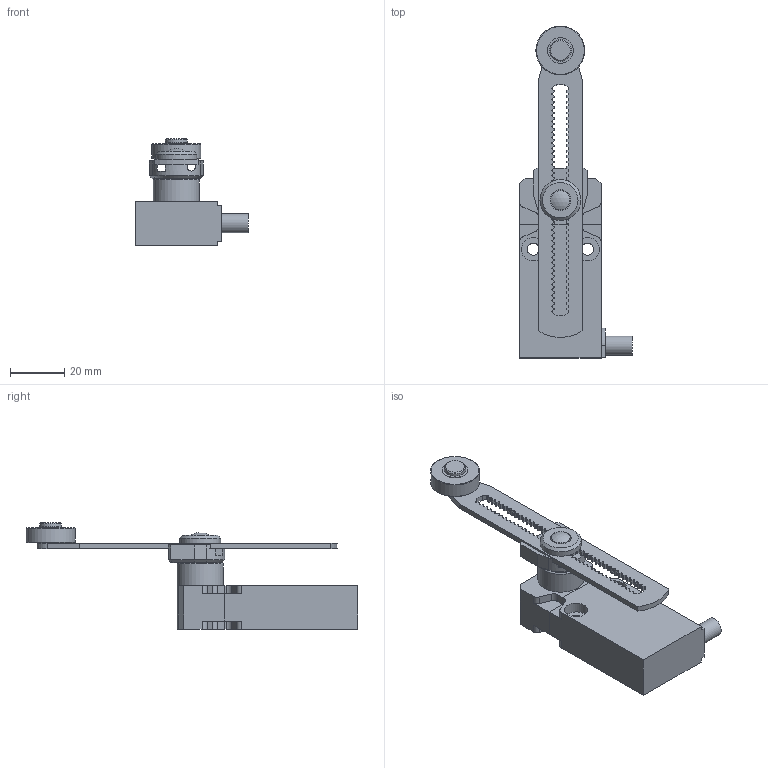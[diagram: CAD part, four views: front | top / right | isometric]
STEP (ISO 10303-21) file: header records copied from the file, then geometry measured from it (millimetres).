
FILE_DESCRIPTION(/* description */ (''),/* implementation_level */ '2;1');
FILE_NAME(/* name */ 'C:\Users\servizio.tecnico\Desktop\CADENAS\3D\EP1_STP\STP_EP1_G5100U.stp',/* time_stamp */ '2017-09-04T09:32:18+02:00',/* author */ ('servizio.tecnico'),/* organization */ (''),/* preprocessor_version */ 'ST-DEVELOPER v16.1',/* originating_system */ 'Autodesk Inventor 2016',/* authorisation */ '');
FILE_SCHEMA (('AUTOMOTIVE_DESIGN { 1 0 10303 214 3 1 1 }'));
Length unit declared in the file: millimetre
Products named in the file (3): Product; EP1G5100; BASE ASSI 
Assembly tree (2 placements, depth 3):
  BASE ASSI 
    EP1G5100
      Product
Bounding box: 41.5 x 122 x 39.1 mm (x, y, z)
Volume: 37532.6 mm3; surface area: 15551.2 mm2
Topology: 5 solids, 5 shells, 504 faces, 1420 edges, 943 vertices
Faces by surface type: plane 278, cylinder 219, torus 3, cone 3, sphere 1
Full cylindrical faces by diameter (mm): 4.4 x2, 6 x2, 7 x2, 7.6 x1, 8 x1, 8.7 x4, 9.5 x2, 11 x1, 15 x1, 17 x1, 18 x1
Entity records: 16375 total; most frequent: CARTESIAN_POINT 2862, DIRECTION 2860, ORIENTED_EDGE 2788, EDGE_CURVE 1394, AXIS2_PLACEMENT_3D 958, LINE 944, VECTOR 944, VERTEX_POINT 940
